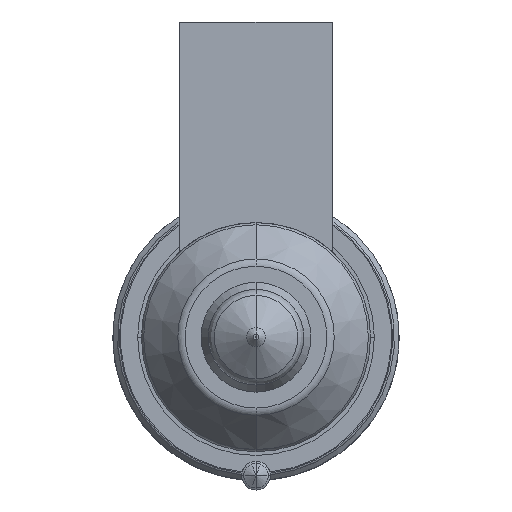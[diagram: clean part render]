
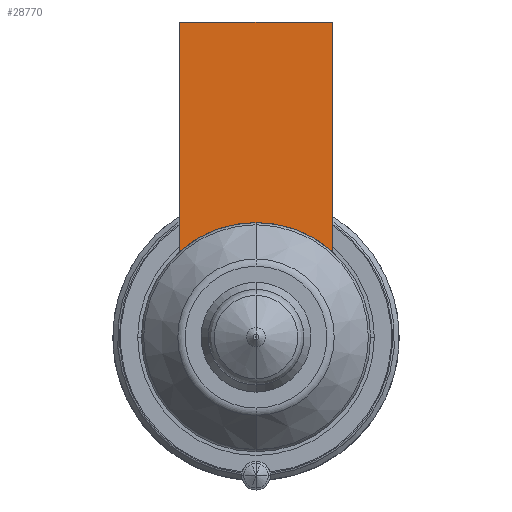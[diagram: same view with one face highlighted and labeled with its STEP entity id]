
A CAD part, front view. The second image highlights one B-rep face of the part: STEP entity #28770.
In plain terms, the highlighted planar face has unit normal (0, -1, 0).
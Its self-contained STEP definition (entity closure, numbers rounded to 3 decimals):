
#27924=DIRECTION('',(0.,0.,-1.));
#27925=VECTOR('',#27924,24.056);
#27926=CARTESIAN_POINT('',(-8.,-56.,33.));
#27927=LINE('',#27926,#27925);
#27964=DIRECTION('',(1.,0.,0.));
#27965=VECTOR('',#27964,16.);
#27966=CARTESIAN_POINT('',(-8.,-56.,33.));
#27967=LINE('',#27966,#27965);
#27971=CARTESIAN_POINT('',(0.,-56.,0.));
#27972=DIRECTION('',(0.,-1.,0.));
#27973=DIRECTION('',(0.667,0.,0.745));
#27974=AXIS2_PLACEMENT_3D('',#27971,#27972,#27973);
#27979=CARTESIAN_POINT('',(0.,-56.,0.));
#27980=DIRECTION('',(0.,-1.,0.));
#27981=DIRECTION('',(0.,0.,1.));
#27982=AXIS2_PLACEMENT_3D('',#27979,#27980,#27981);
#28015=DIRECTION('',(0.,0.,-1.));
#28016=VECTOR('',#28015,24.056);
#28017=CARTESIAN_POINT('',(8.,-56.,33.));
#28018=LINE('',#28017,#28016);
#28614=CARTESIAN_POINT('',(-8.,-56.,33.));
#28615=VERTEX_POINT('',#28614);
#28620=CARTESIAN_POINT('',(8.,-56.,33.));
#28621=VERTEX_POINT('',#28620);
#28624=CARTESIAN_POINT('',(-8.,-56.,8.944));
#28625=VERTEX_POINT('',#28624);
#28628=CARTESIAN_POINT('',(8.,-56.,8.944));
#28629=VERTEX_POINT('',#28628);
#28689=CARTESIAN_POINT('',(0.,-56.,12.));
#28690=VERTEX_POINT('',#28689);
#28755=CARTESIAN_POINT('',(-8.,-56.,33.));
#28756=DIRECTION('',(0.,-1.,0.));
#28757=DIRECTION('',(0.,0.,-1.));
#28758=AXIS2_PLACEMENT_3D('',#28755,#28756,#28757);
#28759=PLANE('',#28758);
#28760=ORIENTED_EDGE('',*,*,#28703,.F.);
#28762=ORIENTED_EDGE('',*,*,#28761,.T.);
#28764=ORIENTED_EDGE('',*,*,#28763,.T.);
#28766=ORIENTED_EDGE('',*,*,#28765,.T.);
#28767=ORIENTED_EDGE('',*,*,#28735,.T.);
#28768=EDGE_LOOP('',(#28760,#28762,#28764,#28766,#28767));
#28769=FACE_OUTER_BOUND('',#28768,.F.);
#28770=ADVANCED_FACE('',(#28769),#28759,.T.);
#27975=CIRCLE('',#27974,12.);
#27983=CIRCLE('',#27982,12.);
#28703=EDGE_CURVE('',#28615,#28625,#27927,.T.);
#28735=EDGE_CURVE('',#28690,#28625,#27983,.T.);
#28761=EDGE_CURVE('',#28615,#28621,#27967,.T.);
#28763=EDGE_CURVE('',#28621,#28629,#28018,.T.);
#28765=EDGE_CURVE('',#28629,#28690,#27975,.T.);
